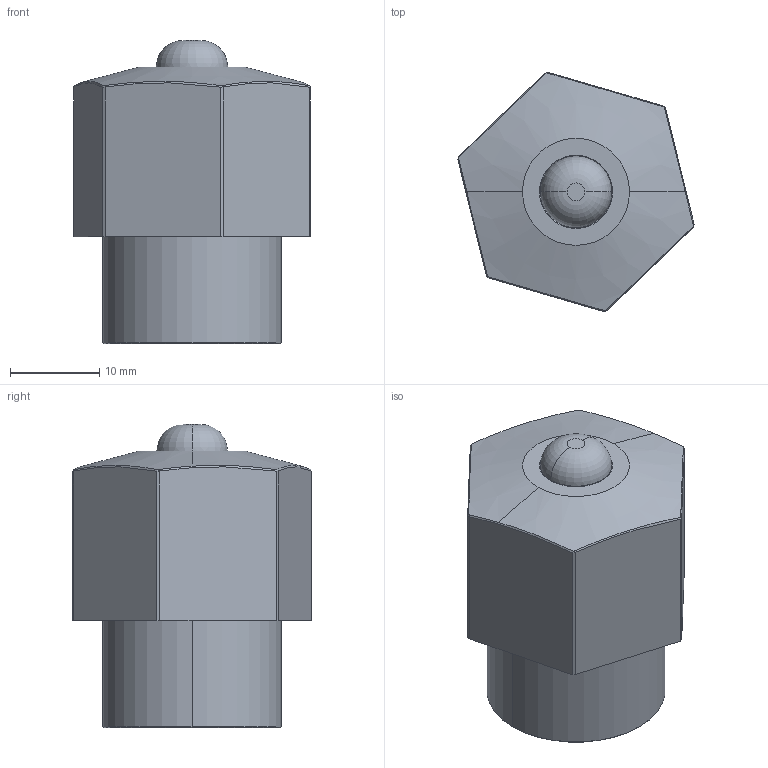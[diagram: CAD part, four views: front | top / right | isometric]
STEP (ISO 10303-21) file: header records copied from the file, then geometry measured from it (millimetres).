
FILE_DESCRIPTION (( 'STEP AP214' ), '1' );
FILE_NAME ('TO4C-M201.STEP', '2020-07-10T06:29:15', ( '' ), ( '' ), 'SwSTEP 2.0', 'SolidWorks 2019', '' );
FILE_SCHEMA (( 'AUTOMOTIVE_DESIGN' ));
Length unit declared in the file: millimetre
Products named in the file (3): TO4C-M201-BODY; TO4C-M201-PISTON; TO4C-M201
Assembly tree (2 placements, depth 2):
  TO4C-M201
    TO4C-M201-BODY
    TO4C-M201-PISTON
Bounding box: 26.48 x 26.86 x 34 mm (x, y, z)
Volume: 12930.8 mm3; surface area: 4837.5 mm2
Topology: 2 solids, 2 shells, 52 faces, 106 edges, 62 vertices
Faces by surface type: plane 26, cylinder 10, cone 8, bspline 6, torus 2
Entity records: 2386 total; most frequent: CARTESIAN_POINT 1215, DIRECTION 214, ORIENTED_EDGE 212, EDGE_CURVE 106, AXIS2_PLACEMENT_3D 83, VERTEX_POINT 62, EDGE_LOOP 56, FACE_OUTER_BOUND 52
